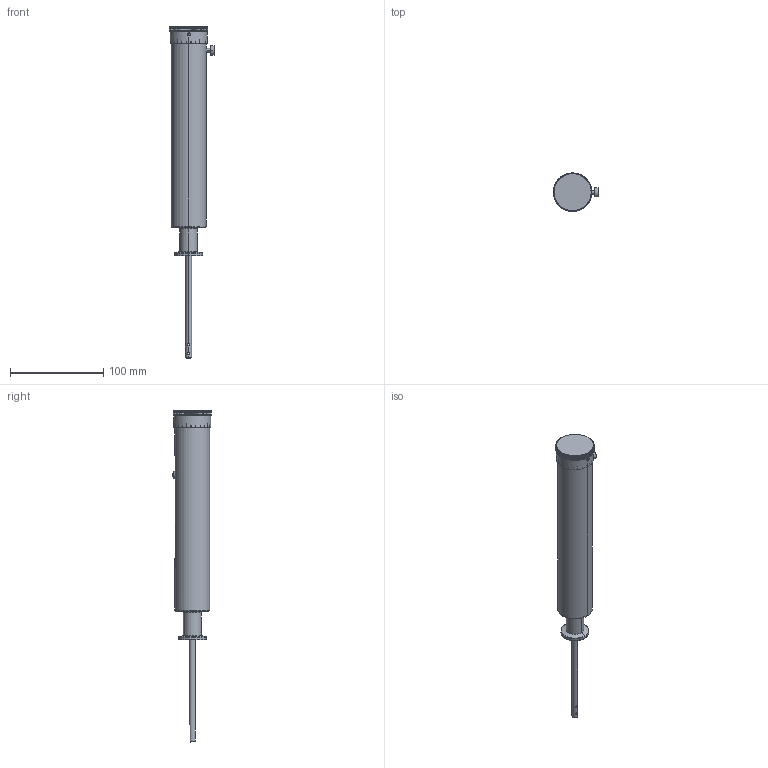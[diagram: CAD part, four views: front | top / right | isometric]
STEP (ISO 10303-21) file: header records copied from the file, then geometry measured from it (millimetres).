
FILE_DESCRIPTION (( 'STEP AP203' ), '1' );
FILE_NAME ('113080.stp', '2019-03-07T21:21:49', ( '' ), ( '' ), 'SwSTEP 2.0', 'SolidWorks 2012', '' );
FILE_SCHEMA (( 'CONFIG_CONTROL_DESIGN' ));
Products named in the file (1): 113080
Bounding box: 48.52 x 41.81 x 356.74 mm (x, y, z)
Volume: 252718.9 mm3; surface area: 34866 mm2
Topology: 1 solids, 1 shells, 857 faces, 2420 edges, 1597 vertices
Faces by surface type: plane 440, cylinder 225, bspline 161, cone 31
Entity records: 53097 total; most frequent: CARTESIAN_POINT 32803, ORIENTED_EDGE 4840, DIRECTION 3350, EDGE_CURVE 2420, VERTEX_POINT 1597, AXIS2_PLACEMENT_3D 1232, B_SPLINE_CURVE_WITH_KNOTS 961, EDGE_LOOP 901
